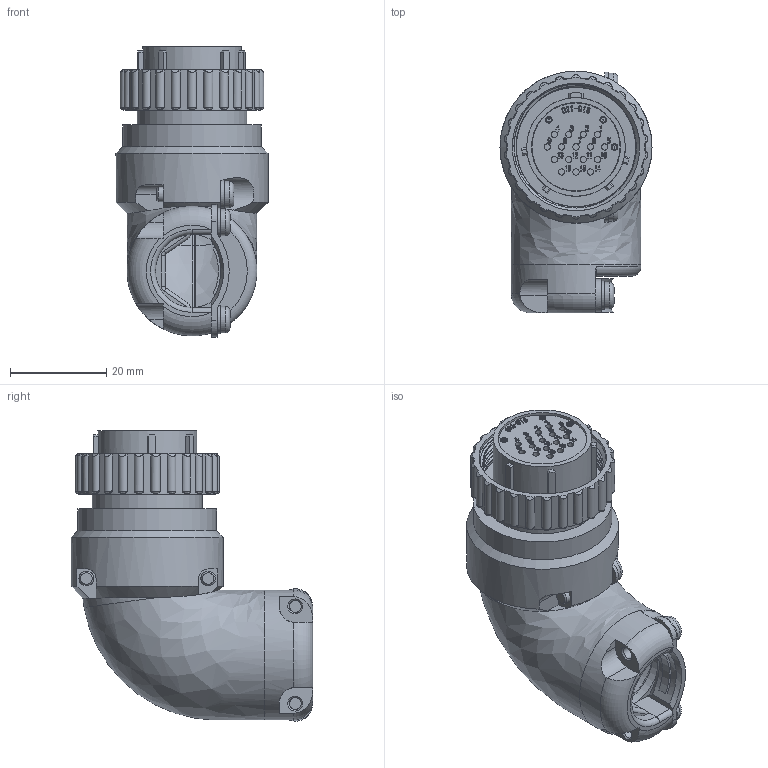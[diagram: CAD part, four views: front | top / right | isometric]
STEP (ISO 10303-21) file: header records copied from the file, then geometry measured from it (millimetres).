
FILE_DESCRIPTION (( 'STEP AP203' ), '1' );
FILE_NAME ('JMLP2116FM-D.STEP', '2021-07-07T02:46:25', ( '' ), ( '' ), 'SwSTEP 2.0', 'SolidWorks 2018', '' );
FILE_SCHEMA (( 'CONFIG_CONTROL_DESIGN' ));
Length unit declared in the file: millimetre
Products named in the file (1): JMLP2116FM-D
Bounding box: 31.6 x 50.2 x 60.33 mm (x, y, z)
Volume: 21914 mm3; surface area: 17462.3 mm2
Topology: 1 solids, 1 shells, 1668 faces, 4527 edges, 2982 vertices
Faces by surface type: plane 729, bspline 636, cylinder 221, cone 63, torus 19
Full cylindrical faces by diameter (mm): 1.1 x19, 1.2 x1, 1.3 x16, 1.4 x4, 1.55 x16, 2.5 x2, 3 x2, 5.5 x4, 15.2 x1, 18.1 x1, 18.3 x1, 18.5 x1, 20.1 x1, 20.5 x1, 22.7 x1, 22.8 x1, 24.8 x1, 26.1 x1, 26.2 x1, 26.5 x1, 27 x1, 28.5 x1, 28.8 x1, 31.6 x1
Entity records: 74838 total; most frequent: CARTESIAN_POINT 38028, ORIENTED_EDGE 8740, DIRECTION 5378, EDGE_CURVE 4370, VERTEX_POINT 2942, LINE 2306, VECTOR 2306, EDGE_LOOP 1908
